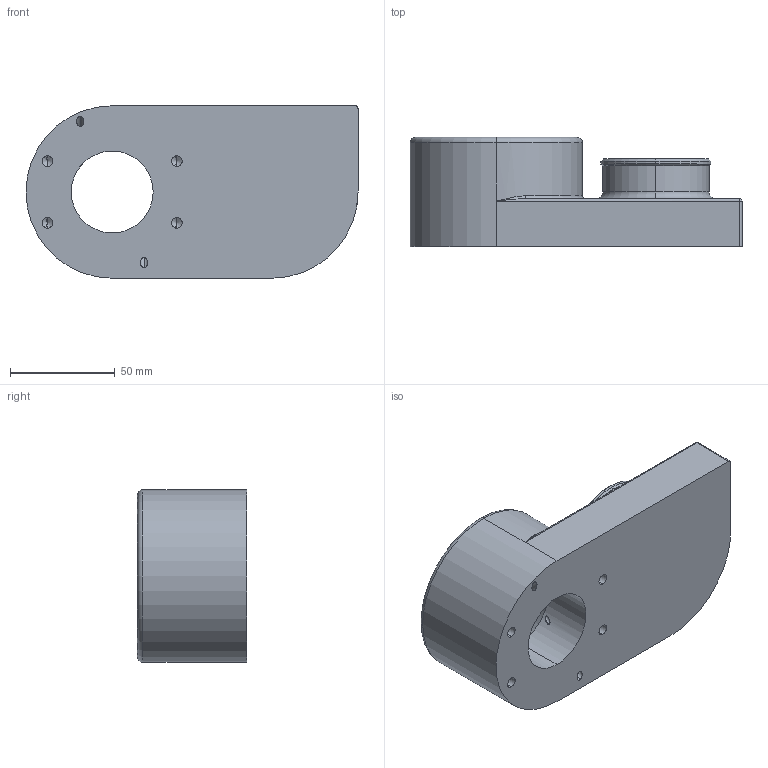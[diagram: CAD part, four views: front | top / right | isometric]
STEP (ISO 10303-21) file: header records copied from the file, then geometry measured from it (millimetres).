
FILE_DESCRIPTION (( 'STEP AP203' ), '1' );
FILE_NAME ('P-201660-14 Sediment Trap Squirty Body Rev A.STEP', '2023-01-09T23:37:12', ( '' ), ( '' ), 'SwSTEP 2.0', 'SolidWorks 2022', '' );
FILE_SCHEMA (( 'CONFIG_CONTROL_DESIGN' ));
Length unit declared in the file: inch
Products named in the file (1): P-201660-14 Sediment Trap Squirty Body Rev A
Bounding box: 158.5 x 52.07 x 82.3 mm (x, y, z)
Volume: 339100.9 mm3; surface area: 59398.5 mm2
Topology: 1 solids, 1 shells, 114 faces, 288 edges, 167 vertices
Faces by surface type: cylinder 58, cone 20, torus 15, plane 15, bspline 5, sphere 1
Entity records: 4528 total; most frequent: CARTESIAN_POINT 1815, DIRECTION 560, ORIENTED_EDGE 546, EDGE_CURVE 273, AXIS2_PLACEMENT_3D 236, VERTEX_POINT 167, EDGE_LOOP 138, CIRCLE 126
